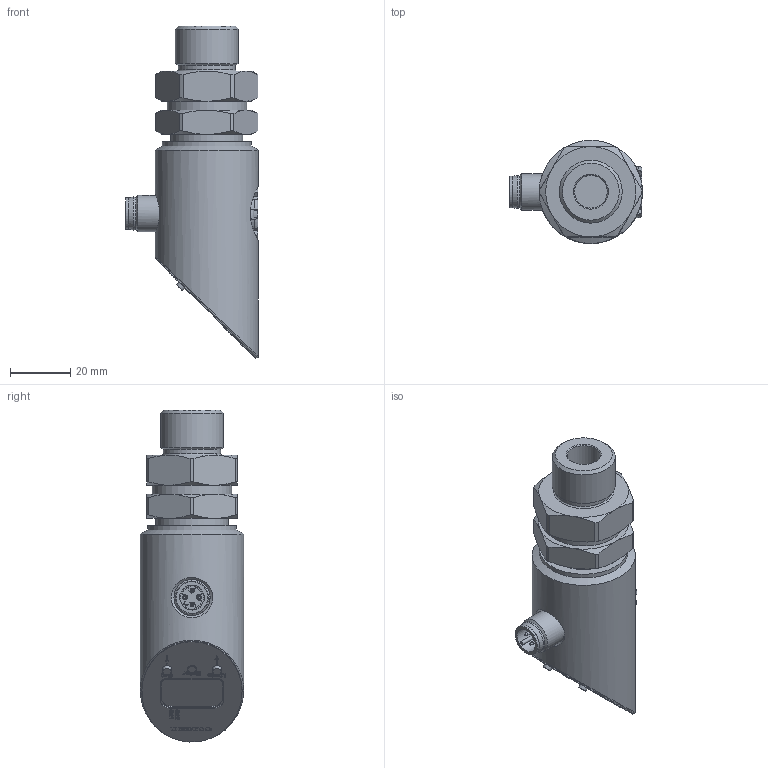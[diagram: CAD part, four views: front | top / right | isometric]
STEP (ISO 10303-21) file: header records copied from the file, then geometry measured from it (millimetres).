
FILE_DESCRIPTION((''),'2;1');
FILE_NAME('C:\TurckZip\TS-500-X-H1.stp','2007-04-17T07:12:59',('IKOROL'),(''),'Autodesk Inventor 11','Autodesk Inventor 11','');
FILE_SCHEMA(('AUTOMOTIVE_DESIGN { 1 0 10303 214 1 1 1 1 }'));
Length unit declared in the file: millimetre
Products named in the file (1): Part30
Bounding box: 44.15 x 34.3 x 110.3 mm (x, y, z)
Volume: 67790.7 mm3; surface area: 17115.3 mm2
Topology: 4 solids, 4 shells, 774 faces, 2062 edges, 1355 vertices
Faces by surface type: plane 460, bspline 138, cylinder 111, cone 44, torus 21
Full cylindrical faces by diameter (mm): 0.8 x4, 1 x8, 1.3 x4, 1.8 x4, 2.8 x3, 3.25 x3, 8 x1, 8.3 x1, 9 x3, 10 x1, 10.5 x1, 10.9 x1, 12 x2, 18.3 x1, 18.6 x1, 19 x1, 20.9 x1, 24 x1, 26.4 x1, 29.5 x1, 34.3 x1
Entity records: 25624 total; most frequent: CARTESIAN_POINT 7619, ORIENTED_EDGE 3940, DIRECTION 3169, EDGE_CURVE 1970, VERTEX_POINT 1337, VECTOR 1319, LINE 1319, AXIS2_PLACEMENT_3D 925
